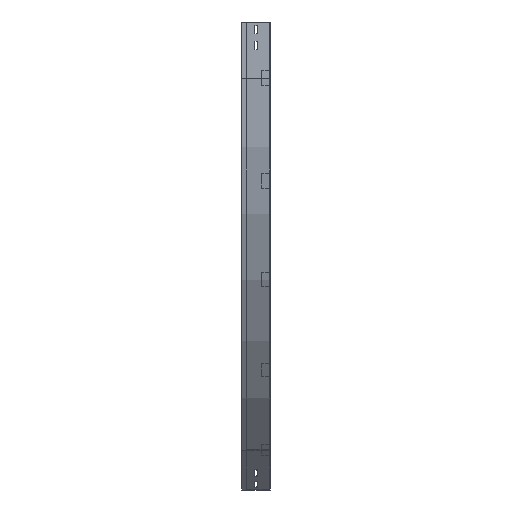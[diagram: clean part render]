
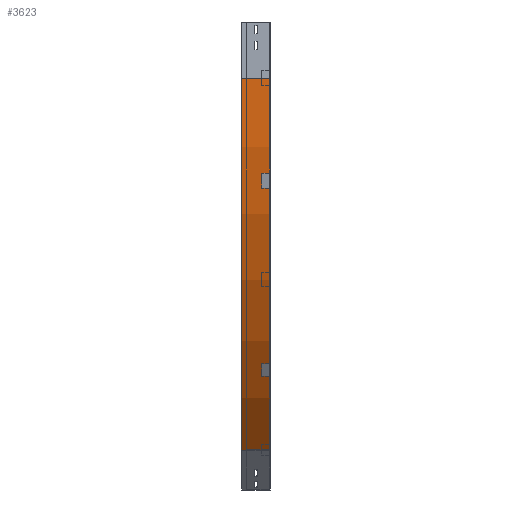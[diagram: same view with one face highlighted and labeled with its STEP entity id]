
A CAD part, left-side view. The second image highlights one B-rep face of the part: STEP entity #3623.
In plain terms, the highlighted cylindrical face has radius 1400 mm (diameter 2800 mm), a partial arc.
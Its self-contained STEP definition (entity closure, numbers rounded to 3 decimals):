
#22 = CARTESIAN_POINT ( 'NONE',  ( 0., 0., -150. ) ) ;
#483 = EDGE_CURVE ( 'NONE', #3123, #1177, #3645, .T. ) ;
#508 = VECTOR ( 'NONE', #2687, 1000. ) ;
#529 = CIRCLE ( 'NONE', #858, 1400. ) ;
#605 = EDGE_CURVE ( 'NONE', #3123, #1218, #3402, .T. ) ;
#728 = CARTESIAN_POINT ( 'NONE',  ( 0., 0., -150. ) ) ;
#858 = AXIS2_PLACEMENT_3D ( 'NONE', #1360, #1068, #3446 ) ;
#870 = DIRECTION ( 'NONE',  ( 0., -1., 0. ) ) ;
#948 = CARTESIAN_POINT ( 'NONE',  ( 410.051, 75., -1139.949 ) ) ;
#1068 = DIRECTION ( 'NONE',  ( 0., -1., 0. ) ) ;
#1177 = VERTEX_POINT ( 'NONE', #948 ) ;
#1207 = AXIS2_PLACEMENT_3D ( 'NONE', #3542, #870, #3237 ) ;
#1218 = VERTEX_POINT ( 'NONE', #22 ) ;
#1360 = CARTESIAN_POINT ( 'NONE',  ( 1400., 0., -150. ) ) ;
#1364 = EDGE_CURVE ( 'NONE', #1218, #2410, #529, .T. ) ;
#1544 = FACE_OUTER_BOUND ( 'NONE', #2493, .T. ) ;
#1779 = AXIS2_PLACEMENT_3D ( 'NONE', #3382, #3656, #1899 ) ;
#1827 = CARTESIAN_POINT ( 'NONE',  ( 410.051, 0., -1139.949 ) ) ;
#1899 = DIRECTION ( 'NONE',  ( -1., 0., 0. ) ) ;
#2105 = ORIENTED_EDGE ( 'NONE', *, *, #483, .T. ) ;
#2410 = VERTEX_POINT ( 'NONE', #1827 ) ;
#2493 = EDGE_LOOP ( 'NONE', ( #3229, #2768, #2105, #3104 ) ) ;
#2687 = DIRECTION ( 'NONE',  ( 0., -1., 0. ) ) ;
#2705 = CARTESIAN_POINT ( 'NONE',  ( 410.051, 0., -1139.949 ) ) ;
#2711 = CARTESIAN_POINT ( 'NONE',  ( 0., 75., -150. ) ) ;
#2728 = CYLINDRICAL_SURFACE ( 'NONE', #1207, 1400. ) ;
#2768 = ORIENTED_EDGE ( 'NONE', *, *, #605, .F. ) ;
#3098 = DIRECTION ( 'NONE',  ( 0., -1., 0. ) ) ;
#3104 = ORIENTED_EDGE ( 'NONE', *, *, #3516, .T. ) ;
#3123 = VERTEX_POINT ( 'NONE', #2711 ) ;
#3229 = ORIENTED_EDGE ( 'NONE', *, *, #1364, .F. ) ;
#3237 = DIRECTION ( 'NONE',  ( 0., 0., -1. ) ) ;
#3382 = CARTESIAN_POINT ( 'NONE',  ( 1400., 75., -150. ) ) ;
#3402 = LINE ( 'NONE', #728, #3583 ) ;
#3446 = DIRECTION ( 'NONE',  ( -1., 0., 0. ) ) ;
#3516 = EDGE_CURVE ( 'NONE', #1177, #2410, #3864, .T. ) ;
#3542 = CARTESIAN_POINT ( 'NONE',  ( 1400., 0., -150. ) ) ;
#3583 = VECTOR ( 'NONE', #3098, 1000. ) ;
#3623 = ADVANCED_FACE ( 'NONE', ( #1544 ), #2728, .T. ) ;
#3645 = CIRCLE ( 'NONE', #1779, 1400. ) ;
#3656 = DIRECTION ( 'NONE',  ( 0., -1., 0. ) ) ;
#3864 = LINE ( 'NONE', #2705, #508 ) ;
